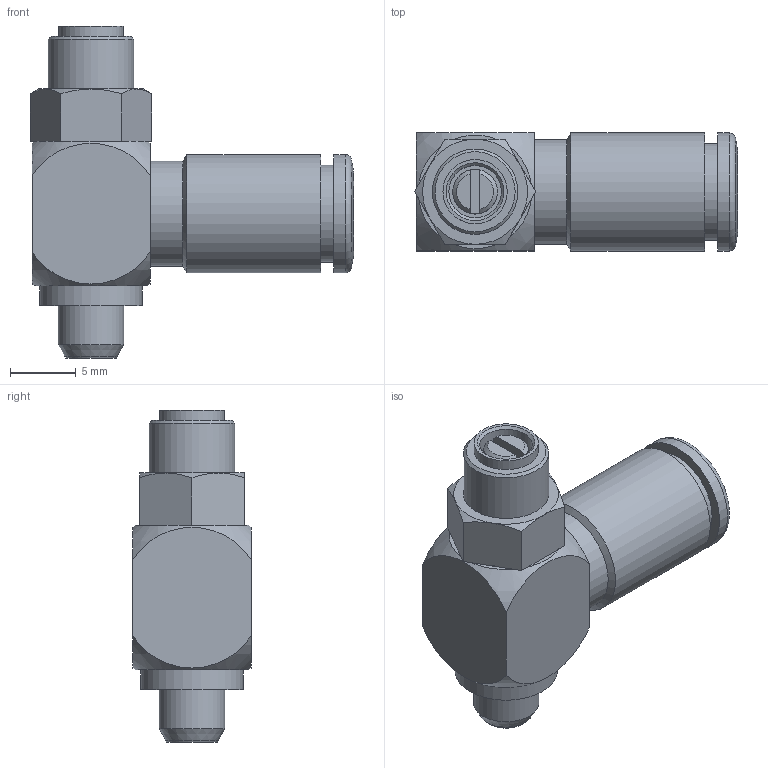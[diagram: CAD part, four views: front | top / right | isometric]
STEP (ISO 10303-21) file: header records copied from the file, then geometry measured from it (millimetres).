
FILE_DESCRIPTION(('Bauteilbeschreibung','HiCAD-Model','HiCAD-STEP-TRANSLATION','Bauteilbeschreibung'),'2;1');
FILE_NAME('B:/ABGLEICH/ZEICHNUNGEN/STEP FÜR INTERNET/STEP/IPSO 029/304801_IPSO_029_4_M5.STP','2012-04-27T13:37:01+00:00',('Konstrukteur'),('Konstrukteur Firma GmbH'),' HiCAD neXt 2008, Step 3.1.1401.2J ','HiCAD neXt 2008','confidential');
FILE_SCHEMA(('AUTOMOTIVE_DESIGN { 1 2 10303 214 0 1 1 1 }'));
Length unit declared in the file: millimetre
Products named in the file (12): A04801_IPSO_029_4_M5; A04000_LRV_M5_SPINDEL; A040000LRV0M50SPINDEL; A040000LRV0M50SPINDEL0; DIN 13_M3; A00041; A04000_LRV_M5_K_RPER; A040000LRV0M50K0RPER; DIN0130M3; DIN 13_M5; A01201_1; DR4_1_NEU
Assembly tree (11 placements, depth 4):
  A04801_IPSO_029_4_M5
    A04000_LRV_M5_SPINDEL
      A040000LRV0M50SPINDEL
      A040000LRV0M50SPINDEL0
        DIN 13_M3
    A00041
    A04000_LRV_M5_K_RPER
    A040000LRV0M50K0RPER
      DIN0130M3
      DIN 13_M5
    A01201_1
    DR4_1_NEU
Bounding box: 24.62 x 9 x 25.3 mm (x, y, z)
Volume: 1766.1 mm3; surface area: 3109.3 mm2
Topology: 8 solids, 8 shells, 134 faces, 309 edges, 200 vertices
Faces by surface type: plane 51, cylinder 45, cone 34, torus 2, sphere 2
Full cylindrical faces by diameter (mm): 1.2 x4, 1.4 x1, 1.8 x1, 2 x1, 2.3 x1, 2.387 x4, 2.4 x1, 3 x3, 3.4 x1, 4 x1, 4.019 x2, 4.1 x2, 4.9 x1, 5 x2, 5.2 x1, 6 x1, 6.4 x1, 6.5 x1, 6.85 x1, 7.3 x1, 7.4 x2, 7.5 x1, 7.6 x1, 7.8 x1, 8 x1, 9 x2
Entity records: 11419 total; most frequent: CARTESIAN_POINT 7588, DIRECTION 608, ORIENTED_EDGE 402, AXIS2_PLACEMENT_3D 284, EDGE_LOOP 238, EDGE_CURVE 201, COLOUR_RGB 192, PRESENTATION_STYLE_ASSIGNMENT 192
